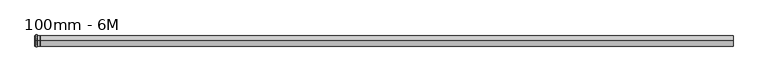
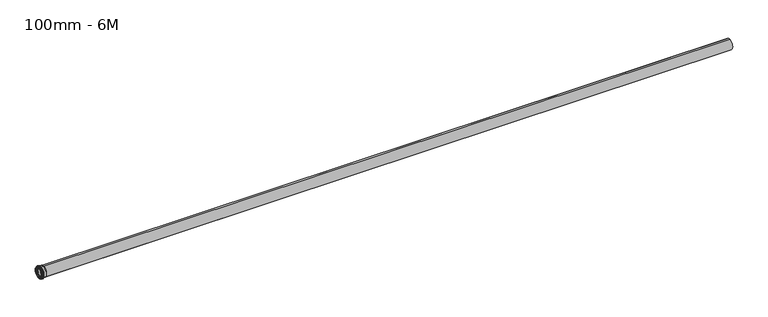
"""IFC4 building model written with IfcOpenShell, lengths in millimetres: pipe fitting geometry, Krona Esgoto Tubo Esg. 100mm - 6M_0103 : 100mm - 6M."""

from ifc_helpers import new_model, si_unit, point, frame, origin, place, context, project, spatial, polyline, circle_curve, ellipse_curve, trimmed, source, transform, mapped, element, save
from ifc_brep_helpers import plane_surface, cylinder_surface, revolved_surface, advanced_brep


def pipe_fitting_100mm_6m_a1bf2bc9(model_context):
    return source(origin(), model_context, "Body", "AdvancedBrep", [
        advanced_brep(
        [(0.0, 0.0, -50.0), (0.0, 0.0, -51.2), (0.0, 0.0, 51.2), (0.0, 0.0, 50.0), (8.8697559, 0.0, -50.0), (8.8697559, 0.0, 50.0), (9.8356817, 0.0, -50.741181), (9.8356817, 0.0, 50.741181), (11.239105, 0.0, -55.9788281), (11.239105, 0.0, 55.9788281), (11.8186605, 0.0, -56.4235367), (11.8186605, 0.0, 56.4235367), (19.1642025, 0.0, -56.4235367), (19.1642025, 0.0, 56.4235367), (19.743758, 0.0, -55.9788281), (19.743758, 0.0, 55.9788281), (21.1471814, 0.0, -50.741181), (21.1471814, 0.0, 50.741181), (22.1131072, 0.0, -50.0), (22.1131072, 0.0, 50.0), (45.7051464, 0.0, -50.0), (45.7051464, 0.0, 50.0), (22.7075118, 0.0, -51.7), (45.7051464, 0.0, -51.7), (45.7051464, 0.0, 51.7), (22.7075118, 0.0, 51.7), (22.109795, 0.0, -52.2477066), (22.109795, 0.0, 52.2477066), (21.7712935, 0.0, -57.1383491), (21.7712935, 0.0, 57.1383491), (20.7592245, 0.0, -57.8235367), (20.7592245, 0.0, 57.8235367), (10.2225407, 0.0, -57.8235367), (10.2225407, 0.0, 57.8235367), (9.2263461, 0.0, -56.9106924), (9.2263461, 0.0, 56.9106924), (8.8183876, 0.0, -52.2477066), (8.8183876, 0.0, 52.2477066), (8.2206708, 0.0, -51.7), (8.2206708, 0.0, 51.7), (0.5, 0.0, -51.7), (0.5, 0.0, 51.7), (6683.3883604, 0.0, -48.3), (54.0, 0.0, -48.3), (54.0, 0.0, 48.3), (6683.3883604, 0.0, 48.3), (6683.3883604, 0.0, -50.0), (6683.3883604, 0.0, 50.0), (54.0, 0.0, -50.0), (54.0, 0.0, 50.0)],
        [
            (0, 1),
            (1, 2, circle_curve(frame((0.0, 0.0, 0.0), z_axis=(-1.0, 0.0, 0.0), x_axis=(0.0, 0.0, 1.0)), 51.2)),
            (2, 3),
            (3, 0, circle_curve(frame((0.0, 0.0, 0.0), z_axis=(1.0, 0.0, 0.0), x_axis=(0.0, 0.0, 1.0)), 50.0)),
            (2, 1, circle_curve(frame((0.0, 0.0, 0.0), z_axis=(-1.0, 0.0, 0.0), x_axis=(0.0, 0.0, 1.0)), 51.2)),
            (0, 3, circle_curve(frame((0.0, 0.0, 0.0), z_axis=(1.0, 0.0, 0.0), x_axis=(0.0, 0.0, 1.0)), 50.0)),
            (4, 0),
            (3, 5),
            (5, 4, circle_curve(frame((8.8697559, 0.0, 0.0), z_axis=(1.0, 0.0, 0.0), x_axis=(0.0, 0.0, 1.0)), 50.0)),
            (4, 5, circle_curve(frame((8.8697559, 0.0, 0.0), z_axis=(1.0, 0.0, 0.0), x_axis=(0.0, 0.0, 1.0)), 50.0)),
            (6, 4, circle_curve(frame((8.8697559, 0.0, -51.0), z_axis=(0.0, -1.0, 0.0), x_axis=(1.0, 0.0, 0.0)), 1.0)),
            (5, 7, circle_curve(frame((8.8697559, 0.0, 51.0), z_axis=(0.0, -1.0, 0.0), x_axis=(1.0, 0.0, 0.0)), 1.0)),
            (7, 6, circle_curve(frame((9.8356817, 0.0, 0.0), z_axis=(1.0, 0.0, 0.0), x_axis=(0.0, 0.0, 1.0)), 50.741181)),
            (6, 7, circle_curve(frame((9.8356817, 0.0, 0.0), z_axis=(1.0, 0.0, 0.0), x_axis=(0.0, 0.0, 1.0)), 50.741181)),
            (8, 6),
            (7, 9),
            (9, 8, circle_curve(frame((11.239105, 0.0, 0.0), z_axis=(1.0, 0.0, 0.0), x_axis=(0.0, 0.0, 1.0)), 55.9788281)),
            (8, 9, circle_curve(frame((11.239105, 0.0, 0.0), z_axis=(1.0, 0.0, 0.0), x_axis=(0.0, 0.0, 1.0)), 55.9788281)),
            (10, 8, circle_curve(frame((11.8186605, 0.0, -55.8235367), z_axis=(0.0, 1.0, 0.0), x_axis=(1.0, 0.0, 0.0)), 0.6)),
            (9, 11, circle_curve(frame((11.8186605, 0.0, 55.8235367), z_axis=(0.0, 1.0, 0.0), x_axis=(1.0, 0.0, 0.0)), 0.6)),
            (11, 10, circle_curve(frame((11.8186605, 0.0, 0.0), z_axis=(1.0, 0.0, 0.0), x_axis=(0.0, 0.0, 1.0)), 56.4235367)),
            (10, 11, circle_curve(frame((11.8186605, 0.0, 0.0), z_axis=(1.0, 0.0, 0.0), x_axis=(0.0, 0.0, 1.0)), 56.4235367)),
            (12, 10),
            (11, 13),
            (13, 12, circle_curve(frame((19.1642025, 0.0, 0.0), z_axis=(1.0, 0.0, 0.0), x_axis=(0.0, 0.0, 1.0)), 56.4235367)),
            (12, 13, circle_curve(frame((19.1642025, 0.0, 0.0), z_axis=(1.0, 0.0, 0.0), x_axis=(0.0, 0.0, 1.0)), 56.4235367)),
            (14, 12, circle_curve(frame((19.1642025, 0.0, -55.8235367), z_axis=(0.0, 1.0, 0.0), x_axis=(1.0, 0.0, 0.0)), 0.6)),
            (13, 15, circle_curve(frame((19.1642025, 0.0, 55.8235367), z_axis=(0.0, 1.0, 0.0), x_axis=(1.0, 0.0, 0.0)), 0.6)),
            (15, 14, circle_curve(frame((19.743758, 0.0, 0.0), z_axis=(1.0, 0.0, 0.0), x_axis=(0.0, 0.0, 1.0)), 55.9788281)),
            (14, 15, circle_curve(frame((19.743758, 0.0, 0.0), z_axis=(1.0, 0.0, 0.0), x_axis=(0.0, 0.0, 1.0)), 55.9788281)),
            (16, 14),
            (15, 17),
            (17, 16, circle_curve(frame((21.1471814, 0.0, 0.0), z_axis=(1.0, 0.0, 0.0), x_axis=(0.0, 0.0, 1.0)), 50.741181)),
            (16, 17, circle_curve(frame((21.1471814, 0.0, 0.0), z_axis=(1.0, 0.0, 0.0), x_axis=(0.0, 0.0, 1.0)), 50.741181)),
            (18, 16, circle_curve(frame((22.1131072, 0.0, -51.0), z_axis=(0.0, -1.0, 0.0), x_axis=(1.0, 0.0, 0.0)), 1.0)),
            (17, 19, circle_curve(frame((22.1131072, 0.0, 51.0), z_axis=(0.0, -1.0, 0.0), x_axis=(1.0, 0.0, 0.0)), 1.0)),
            (19, 18, circle_curve(frame((22.1131072, 0.0, 0.0), z_axis=(1.0, 0.0, 0.0), x_axis=(0.0, 0.0, 1.0)), 50.0)),
            (18, 19, circle_curve(frame((22.1131072, 0.0, 0.0), z_axis=(1.0, 0.0, 0.0), x_axis=(0.0, 0.0, 1.0)), 50.0)),
            (20, 18),
            (19, 21),
            (21, 20, circle_curve(frame((45.7051464, 0.0, 0.0), z_axis=(1.0, 0.0, 0.0), x_axis=(0.0, 0.0, 1.0)), 50.0)),
            (20, 21, circle_curve(frame((45.7051464, 0.0, 0.0), z_axis=(1.0, 0.0, 0.0), x_axis=(0.0, 0.0, 1.0)), 50.0)),
            (22, 23),
            (23, 24, circle_curve(frame((45.7051464, 0.0, 0.0), z_axis=(-1.0, 0.0, 0.0), x_axis=(0.0, 0.0, 1.0)), 51.7)),
            (24, 25),
            (25, 22, circle_curve(frame((22.7075118, 0.0, 0.0), z_axis=(1.0, 0.0, 0.0), x_axis=(0.0, 0.0, 1.0)), 51.7)),
            (24, 23, circle_curve(frame((45.7051464, 0.0, 0.0), z_axis=(-1.0, 0.0, 0.0), x_axis=(0.0, 0.0, 1.0)), 51.7)),
            (22, 25, circle_curve(frame((22.7075118, 0.0, 0.0), z_axis=(1.0, 0.0, 0.0), x_axis=(0.0, 0.0, 1.0)), 51.7)),
            (26, 22, circle_curve(frame((22.7075118, 0.0, -52.3), z_axis=(0.0, 1.0, 0.0), x_axis=(1.0, 0.0, 0.0)), 0.6)),
            (25, 27, circle_curve(frame((22.7075118, 0.0, 52.3), z_axis=(0.0, 1.0, 0.0), x_axis=(1.0, 0.0, 0.0)), 0.6)),
            (27, 26, circle_curve(frame((22.109795, 0.0, 0.0), z_axis=(1.0, 0.0, 0.0), x_axis=(0.0, 0.0, 1.0)), 52.2477066)),
            (26, 27, circle_curve(frame((22.109795, 0.0, 0.0), z_axis=(1.0, 0.0, 0.0), x_axis=(0.0, 0.0, 1.0)), 52.2477066)),
            (28, 26),
            (27, 29),
            (29, 28, circle_curve(frame((21.7712935, 0.0, 0.0), z_axis=(1.0, 0.0, 0.0), x_axis=(0.0, 0.0, 1.0)), 57.1383491)),
            (28, 29, circle_curve(frame((21.7712935, 0.0, 0.0), z_axis=(1.0, 0.0, 0.0), x_axis=(0.0, 0.0, 1.0)), 57.1383491)),
            (30, 28, circle_curve(frame((20.7592245, 0.0, -56.7334953), z_axis=(0.0, -1.0, 0.0), x_axis=(1.0, 0.0, 0.0)), 1.0900414)),
            (29, 31, circle_curve(frame((20.7592245, 0.0, 56.7334953), z_axis=(0.0, -1.0, 0.0), x_axis=(1.0, 0.0, 0.0)), 1.0900414)),
            (31, 30, circle_curve(frame((20.7592245, 0.0, 0.0), z_axis=(1.0, 0.0, 0.0), x_axis=(0.0, 0.0, 1.0)), 57.8235367)),
            (30, 31, circle_curve(frame((20.7592245, 0.0, 0.0), z_axis=(1.0, 0.0, 0.0), x_axis=(0.0, 0.0, 1.0)), 57.8235367)),
            (32, 30),
            (31, 33),
            (33, 32, circle_curve(frame((10.2225407, 0.0, 0.0), z_axis=(1.0, 0.0, 0.0), x_axis=(0.0, 0.0, 1.0)), 57.8235367)),
            (32, 33, circle_curve(frame((10.2225407, 0.0, 0.0), z_axis=(1.0, 0.0, 0.0), x_axis=(0.0, 0.0, 1.0)), 57.8235367)),
            (34, 32, circle_curve(frame((10.2225407, 0.0, -56.8235367), z_axis=(0.0, -1.0, 0.0), x_axis=(1.0, 0.0, 0.0)), 1.0)),
            (33, 35, circle_curve(frame((10.2225407, 0.0, 56.8235367), z_axis=(0.0, -1.0, 0.0), x_axis=(1.0, 0.0, 0.0)), 1.0)),
            (35, 34, circle_curve(frame((9.2263461, 0.0, 0.0), z_axis=(1.0, 0.0, 0.0), x_axis=(0.0, 0.0, 1.0)), 56.9106924)),
            (34, 35, circle_curve(frame((9.2263461, 0.0, 0.0), z_axis=(1.0, 0.0, 0.0), x_axis=(0.0, 0.0, 1.0)), 56.9106924)),
            (36, 34),
            (35, 37),
            (37, 36, circle_curve(frame((8.8183876, 0.0, 0.0), z_axis=(1.0, 0.0, 0.0), x_axis=(0.0, 0.0, 1.0)), 52.2477066)),
            (36, 37, circle_curve(frame((8.8183876, 0.0, 0.0), z_axis=(1.0, 0.0, 0.0), x_axis=(0.0, 0.0, 1.0)), 52.2477066)),
            (38, 36, circle_curve(frame((8.2206708, 0.0, -52.3), z_axis=(0.0, 1.0, 0.0), x_axis=(1.0, 0.0, 0.0)), 0.6)),
            (37, 39, circle_curve(frame((8.2206708, 0.0, 52.3), z_axis=(0.0, 1.0, 0.0), x_axis=(1.0, 0.0, 0.0)), 0.6)),
            (39, 38, circle_curve(frame((8.2206708, 0.0, 0.0), z_axis=(1.0, 0.0, 0.0), x_axis=(0.0, 0.0, 1.0)), 51.7)),
            (38, 39, circle_curve(frame((8.2206708, 0.0, 0.0), z_axis=(1.0, 0.0, 0.0), x_axis=(0.0, 0.0, 1.0)), 51.7)),
            (40, 38),
            (39, 41),
            (41, 40, circle_curve(frame((0.5, 0.0, 0.0), z_axis=(1.0, 0.0, 0.0), x_axis=(0.0, 0.0, 1.0)), 51.7)),
            (40, 41, circle_curve(frame((0.5, 0.0, 0.0), z_axis=(1.0, 0.0, 0.0), x_axis=(0.0, 0.0, 1.0)), 51.7)),
            (1, 40, circle_curve(frame((0.5, 0.0, -51.2), z_axis=(0.0, -1.0, 0.0), x_axis=(1.0, 0.0, 0.0)), 0.5)),
            (41, 2, circle_curve(frame((0.5, 0.0, 51.2), z_axis=(0.0, -1.0, 0.0), x_axis=(1.0, 0.0, 0.0)), 0.5)),
            (42, 43),
            (43, 44, circle_curve(frame((54.0, 0.0, 0.0), z_axis=(-1.0, 0.0, 0.0), x_axis=(0.0, 0.0, 1.0)), 48.3)),
            (44, 45),
            (45, 42, circle_curve(frame((6683.3883604, 0.0, 0.0), z_axis=(1.0, 0.0, 0.0), x_axis=(0.0, 0.0, 1.0)), 48.3)),
            (44, 43, circle_curve(frame((54.0, 0.0, 0.0), z_axis=(-1.0, 0.0, 0.0), x_axis=(0.0, 0.0, 1.0)), 48.3)),
            (42, 45, circle_curve(frame((6683.3883604, 0.0, 0.0), z_axis=(1.0, 0.0, 0.0), x_axis=(0.0, 0.0, 1.0)), 48.3)),
            (46, 42),
            (45, 47),
            (47, 46, circle_curve(frame((6683.3883604, 0.0, 0.0), z_axis=(1.0, 0.0, 0.0), x_axis=(0.0, 0.0, 1.0)), 50.0)),
            (46, 47, circle_curve(frame((6683.3883604, 0.0, 0.0), z_axis=(1.0, 0.0, 0.0), x_axis=(0.0, 0.0, 1.0)), 50.0)),
            (48, 46),
            (47, 49),
            (49, 48, circle_curve(frame((54.0, 0.0, 0.0), z_axis=(1.0, 0.0, 0.0), x_axis=(0.0, 0.0, 1.0)), 50.0)),
            (48, 49, circle_curve(frame((54.0, 0.0, 0.0), z_axis=(1.0, 0.0, 0.0), x_axis=(0.0, 0.0, 1.0)), 50.0)),
            (43, 20),
            (21, 44),
            (23, 48),
            (49, 24),
        ],
        [
            plane_surface(frame((0.0, 0.0, 0.0), z_axis=(-1.0, 0.0, 0.0), x_axis=(0.0, 0.0, 1.0))),
            revolved_surface(polyline([(0.0, 0.0, 50.0), (8.869755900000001, 0.0, 50.0)]), (-92.1539949, 0.0, 0.0), (-1.0, 0.0, 0.0)),
            revolved_surface(trimmed(ellipse_curve(frame((8.8697559, 0.0, 51.0), z_axis=(0.0, -1.0, 0.0), x_axis=(1.0, 0.0, 0.0)), 1.0, 1.0), [point((8.8697559, 0.0, 50.0))], [point((9.8356817, 0.0, 50.741181))], True, "CARTESIAN"), (-92.1539949, 0.0, 0.0), (-1.0, 0.0, 0.0)),
            revolved_surface(polyline([(9.8356817, 0.0, 50.741181), (11.239105, 0.0, 55.9788281)]), (-92.1539949, 0.0, 0.0), (-1.0, 0.0, 0.0)),
            revolved_surface(trimmed(ellipse_curve(frame((11.8186605, 0.0, 55.8235367), z_axis=(0.0, 1.0, 0.0), x_axis=(1.0, 0.0, 0.0)), 0.6, 0.6), [point((11.239105, 0.0, 55.9788281))], [point((11.8186605, 0.0, 56.4235367))], True, "CARTESIAN"), (-92.1539949, 0.0, 0.0), (-1.0, 0.0, 0.0)),
            revolved_surface(polyline([(11.818660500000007, 0.0, 56.4235367), (19.164202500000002, 0.0, 56.4235367)]), (-92.1539949, 0.0, 0.0), (-1.0, 0.0, 0.0)),
            revolved_surface(trimmed(ellipse_curve(frame((19.1642025, 0.0, 55.8235367), z_axis=(0.0, 1.0, 0.0), x_axis=(1.0, 0.0, 0.0)), 0.6, 0.6), [point((19.1642025, 0.0, 56.4235367))], [point((19.743758, 0.0, 55.9788281))], True, "CARTESIAN"), (-92.1539949, 0.0, 0.0), (-1.0, 0.0, 0.0)),
            revolved_surface(polyline([(19.743758, 0.0, 55.9788281), (21.1471814, 0.0, 50.741181)]), (-92.1539949, 0.0, 0.0), (-1.0, 0.0, 0.0)),
            revolved_surface(trimmed(ellipse_curve(frame((22.1131072, 0.0, 51.0), z_axis=(0.0, -1.0, 0.0), x_axis=(1.0, 0.0, 0.0)), 1.0, 1.0), [point((21.1471814, 0.0, 50.741181))], [point((22.1131072, 0.0, 50.0))], True, "CARTESIAN"), (-92.1539949, 0.0, 0.0), (-1.0, 0.0, 0.0)),
            revolved_surface(polyline([(22.1131072, 0.0, 50.0), (45.705146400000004, 0.0, 50.0)]), (-92.1539949, 0.0, 0.0), (-1.0, 0.0, 0.0)),
            cylinder_surface(frame((-92.1539949, 0.0, 0.0), z_axis=(-1.0, 0.0, 0.0), x_axis=(0.0, 0.0, 1.0)), 51.7),
            revolved_surface(trimmed(ellipse_curve(frame((22.7075118, 0.0, 52.3), z_axis=(0.0, 1.0, 0.0), x_axis=(1.0, 0.0, 0.0)), 0.6, 0.6), [point((22.7075118, 0.0, 51.7))], [point((22.109795, 0.0, 52.2477066))], True, "CARTESIAN"), (-92.1539949, 0.0, 0.0), (-1.0, 0.0, 0.0)),
            revolved_surface(polyline([(22.109795, 0.0, 52.2477066), (21.7712935, 0.0, 57.1383491)]), (-92.1539949, 0.0, 0.0), (-1.0, 0.0, 0.0)),
            revolved_surface(trimmed(ellipse_curve(frame((20.7592245, 0.0, 56.7334953), z_axis=(0.0, -1.0, 0.0), x_axis=(1.0, 0.0, 0.0)), 1.0900414, 1.0900414), [point((21.7712935, 0.0, 57.1383491))], [point((20.7592245, 0.0, 57.8235367))], True, "CARTESIAN"), (-92.1539949, 0.0, 0.0), (-1.0, 0.0, 0.0)),
            cylinder_surface(frame((-92.1539949, 0.0, 0.0), z_axis=(-1.0, 0.0, 0.0), x_axis=(0.0, 0.0, 1.0)), 57.8235367),
            revolved_surface(trimmed(ellipse_curve(frame((10.2225407, 0.0, 56.8235367), z_axis=(0.0, -1.0, 0.0), x_axis=(1.0, 0.0, 0.0)), 1.0, 1.0), [point((10.2225407, 0.0, 57.8235367))], [point((9.2263461, 0.0, 56.9106924))], True, "CARTESIAN"), (-92.1539949, 0.0, 0.0), (-1.0, 0.0, 0.0)),
            revolved_surface(polyline([(9.2263461, 0.0, 56.9106924), (8.8183876, 0.0, 52.2477066)]), (-92.1539949, 0.0, 0.0), (-1.0, 0.0, 0.0)),
            revolved_surface(trimmed(ellipse_curve(frame((8.2206708, 0.0, 52.3), z_axis=(0.0, 1.0, 0.0), x_axis=(1.0, 0.0, 0.0)), 0.6, 0.6), [point((8.8183876, 0.0, 52.2477066))], [point((8.2206708, 0.0, 51.7))], True, "CARTESIAN"), (-92.1539949, 0.0, 0.0), (-1.0, 0.0, 0.0)),
            revolved_surface(trimmed(ellipse_curve(frame((0.5, 0.0, 51.2), z_axis=(0.0, -1.0, 0.0), x_axis=(1.0, 0.0, 0.0)), 0.5, 0.5), [point((0.5, 0.0, 51.7))], [point((0.0, 0.0, 51.2))], True, "CARTESIAN"), (-92.1539949, 0.0, 0.0), (-1.0, 0.0, 0.0)),
            revolved_surface(polyline([(53.999999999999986, 0.0, 48.3), (6683.3883604, 0.0, 48.3)]), (-92.1539949, 0.0, 0.0), (-1.0, 0.0, 0.0)),
            plane_surface(frame((6683.3883604, 0.0, 0.0), z_axis=(1.0, 0.0, 0.0), x_axis=(0.0, 0.0, 1.0))),
            cylinder_surface(frame((-92.1539949, 0.0, 0.0), z_axis=(-1.0, 0.0, 0.0), x_axis=(0.0, 0.0, 1.0)), 50.0),
            revolved_surface(polyline([(45.7051464, 0.0, 50.0), (54.0, 0.0, 48.3)]), (-92.1539949, 0.0, 0.0), (-1.0, 0.0, 0.0)),
            revolved_surface(polyline([(54.0, 0.0, 50.0), (45.7051464, 0.0, 51.7)]), (-92.1539949, 0.0, 0.0), (-1.0, 0.0, 0.0)),
        ],
        [
            (0, [[1, 2, 3, 4]]),
            (0, [[-3, 5, -1, 6]]),
            (1, [[7, -4, 8, 9]]),
            (1, [[-8, -6, -7, 10]]),
            (2, [[11, -9, 12, 13]]),
            (2, [[-12, -10, -11, 14]]),
            (3, [[15, -13, 16, 17]]),
            (3, [[-16, -14, -15, 18]]),
            (4, [[19, -17, 20, 21]]),
            (4, [[-20, -18, -19, 22]]),
            (5, [[23, -21, 24, 25]]),
            (5, [[-24, -22, -23, 26]]),
            (6, [[27, -25, 28, 29]]),
            (6, [[-28, -26, -27, 30]]),
            (7, [[31, -29, 32, 33]]),
            (7, [[-32, -30, -31, 34]]),
            (8, [[35, -33, 36, 37]]),
            (8, [[-36, -34, -35, 38]]),
            (9, [[39, -37, 40, 41]]),
            (9, [[-40, -38, -39, 42]]),
            (10, [[43, 44, 45, 46]]),
            (10, [[-45, 47, -43, 48]]),
            (11, [[49, -46, 50, 51]]),
            (11, [[-50, -48, -49, 52]]),
            (12, [[53, -51, 54, 55]]),
            (12, [[-54, -52, -53, 56]]),
            (13, [[57, -55, 58, 59]]),
            (13, [[-58, -56, -57, 60]]),
            (14, [[61, -59, 62, 63]]),
            (14, [[-62, -60, -61, 64]]),
            (15, [[65, -63, 66, 67]]),
            (15, [[-66, -64, -65, 68]]),
            (16, [[69, -67, 70, 71]]),
            (16, [[-70, -68, -69, 72]]),
            (17, [[73, -71, 74, 75]]),
            (17, [[-74, -72, -73, 76]]),
            (10, [[77, -75, 78, 79]]),
            (10, [[-78, -76, -77, 80]]),
            (18, [[81, -79, 82, -2]]),
            (18, [[-82, -80, -81, -5]]),
            (19, [[83, 84, 85, 86]]),
            (19, [[-85, 87, -83, 88]]),
            (20, [[89, -86, 90, 91]]),
            (20, [[-90, -88, -89, 92]]),
            (21, [[93, -91, 94, 95]]),
            (21, [[-94, -92, -93, 96]]),
            (22, [[97, -41, 98, -84]]),
            (22, [[-98, -42, -97, -87]]),
            (23, [[99, -95, 100, -44]]),
            (23, [[-100, -96, -99, -47]]),
        ],
    ),
    ])


if __name__ == "__main__":
    model = new_model("IFC4")
    model_context = context("Model", 3, world=origin())
    ifc_project = project(units=[si_unit("LENGTHUNIT", "METRE", prefix="MILLI")], contexts=[model_context])
    site = spatial("IfcSite", under=ifc_project)
    building = spatial("IfcBuilding", under=site)
    placement = place(None, origin())
    pipe_fitting_100mm_6m_shape = pipe_fitting_100mm_6m_a1bf2bc9(model_context)
    element("IfcPipeFitting", 1, ObjectType="Krona Esgoto Tubo Esg. 100mm - 6M_0103 : 100mm - 6M", at=placement, inside=building, context=model_context, shape_type="MappedRepresentation", body=[
        mapped(pipe_fitting_100mm_6m_shape, transform((0.0, 0.0, 0.0), x_axis=(1.0, 0.0, 0.0), y_axis=(0.0, 1.0, 0.0), z_axis=(0.0, 0.0, 1.0))),
    ])
    save(model, "model.ifc")
